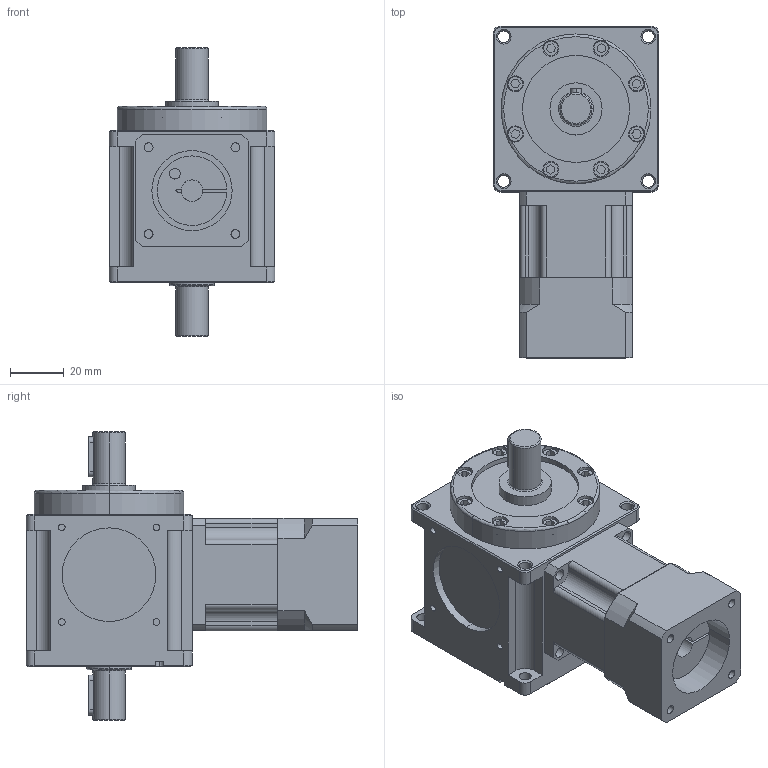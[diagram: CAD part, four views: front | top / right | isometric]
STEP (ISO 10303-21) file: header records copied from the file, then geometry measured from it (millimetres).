
FILE_DESCRIPTION (( 'STEP AP214' ), '1' );
FILE_NAME ('CCW062A-L1(6-20)-2P 8-30-46-M4.STEP', '2025-06-02T07:49:34', ( '微软用户' ), ( '微软中国' ), 'SwSTEP 2.0', 'SolidWorks 2024', '' );
FILE_SCHEMA (( 'AUTOMOTIVE_DESIGN' ));
Length unit declared in the file: millimetre
Products named in the file (3): CCW062A-L1(6-20)-2P 8-30-46-M4; 042-L1齿圈; CCW062A-002-2P箱体
Assembly tree (2 placements, depth 2):
  CCW062A-L1(6-20)-2P 8-30-46-M4
    CCW062A-002-2P箱体
    042-L1齿圈
Bounding box: 62 x 124 x 108 mm (x, y, z)
Volume: 305368.1 mm3; surface area: 47141.9 mm2
Topology: 2 solids, 2 shells, 431 faces, 1039 edges, 664 vertices
Faces by surface type: plane 200, cylinder 173, cone 44, torus 14
Entity records: 12935 total; most frequent: CARTESIAN_POINT 2413, DIRECTION 2305, ORIENTED_EDGE 2078, EDGE_CURVE 1039, AXIS2_PLACEMENT_3D 864, VERTEX_POINT 664, VECTOR 577, LINE 577
